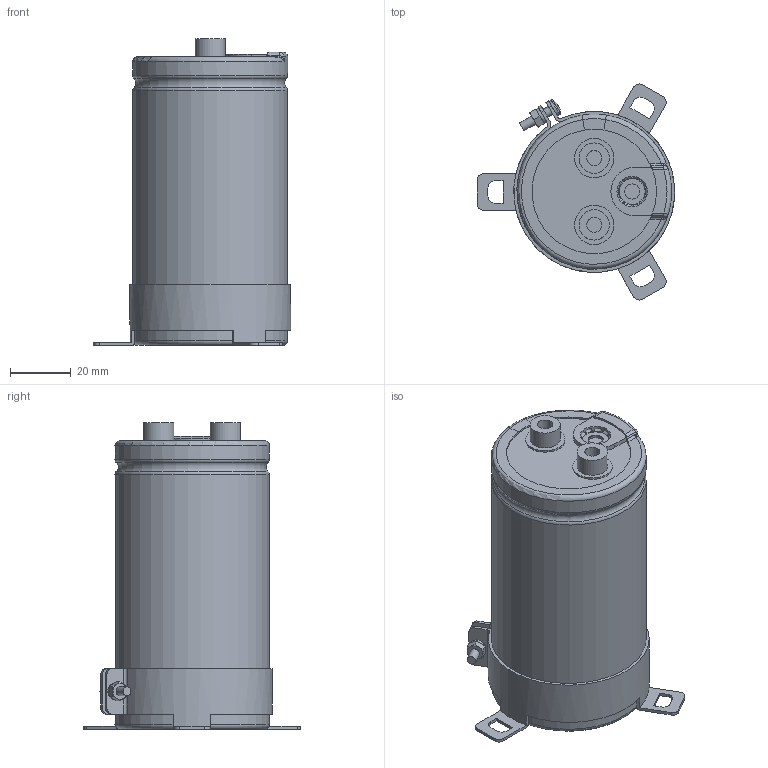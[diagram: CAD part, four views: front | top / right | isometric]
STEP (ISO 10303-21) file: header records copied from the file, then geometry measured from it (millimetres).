
FILE_DESCRIPTION(/* description */ (''),/* implementation_level */ '2;1');
FILE_NAME(/* name */ '51x95_Screw.stp',/* time_stamp */ '2017-09-15T13:46:33+09:00',/* author */ (''),/* organization */ (''),/* preprocessor_version */ 'ST-DEVELOPER v16',/* originating_system */ 'SIEMENS PLM Software NX 11.0',/* authorisation */ '');
FILE_SCHEMA (('AUTOMOTIVE_DESIGN { 1 0 10303 214 3 1 1 1 }'));
Length unit declared in the file: millimetre
Products named in the file (1): 51x95_Screw
Bounding box: 65 x 71.22 x 101 mm (x, y, z)
Volume: 196053.5 mm3; surface area: 59956.5 mm2
Topology: 9 solids, 9 shells, 298 faces, 744 edges, 471 vertices
Faces by surface type: plane 118, cylinder 78, torus 54, cone 31, bspline 12, sphere 5
Full cylindrical faces by diameter (mm): 3 x5, 5 x6, 5.5 x2, 10 x4, 13 x2, 49.8 x2
Entity records: 10562 total; most frequent: CARTESIAN_POINT 3129, DIRECTION 1450, ORIENTED_EDGE 1410, EDGE_CURVE 705, AXIS2_PLACEMENT_3D 606, VERTEX_POINT 464, EDGE_LOOP 353, CIRCLE 319
